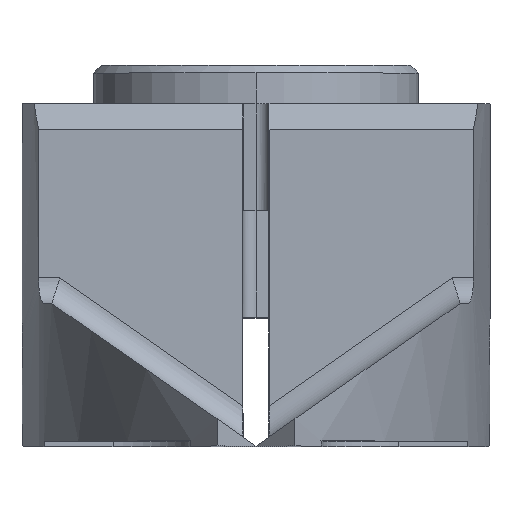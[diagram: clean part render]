
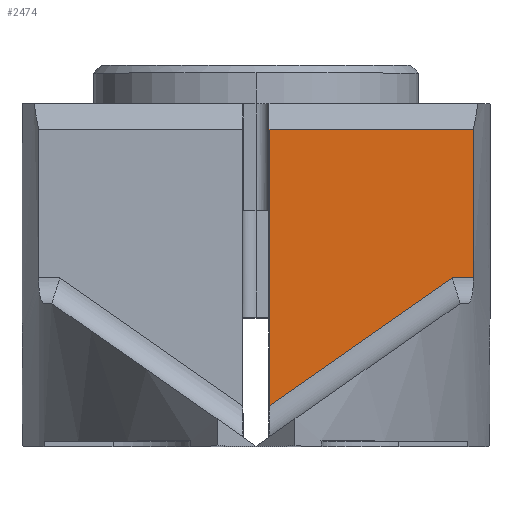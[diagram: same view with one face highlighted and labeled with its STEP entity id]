
A CAD part, top view. The second image highlights one B-rep face of the part: STEP entity #2474.
In plain terms, the highlighted planar face has unit normal (0, 0, 1).
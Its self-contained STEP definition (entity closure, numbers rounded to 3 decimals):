
#125 = LINE ( 'NONE', #371, #3430 ) ;
#371 = CARTESIAN_POINT ( 'NONE',  ( 8.362, 1.6, 20. ) ) ;
#437 = LINE ( 'NONE', #2467, #2647 ) ;
#508 = CARTESIAN_POINT ( 'NONE',  ( 8.362, 7.2, 20. ) ) ;
#612 = VERTEX_POINT ( 'NONE', #1648 ) ;
#635 = LINE ( 'NONE', #1514, #4873 ) ;
#852 = ORIENTED_EDGE ( 'NONE', *, *, #1675, .T. ) ;
#952 = VERTEX_POINT ( 'NONE', #3703 ) ;
#1037 = CARTESIAN_POINT ( 'NONE',  ( 7.54, 1.5, 20. ) ) ;
#1121 = DIRECTION ( 'NONE',  ( -1., 0., 0. ) ) ;
#1304 = CARTESIAN_POINT ( 'NONE',  ( 0.5, -3.429, 20. ) ) ;
#1431 = PLANE ( 'NONE',  #2781 ) ;
#1514 = CARTESIAN_POINT ( 'NONE',  ( 0.5, 1.6, 20. ) ) ;
#1606 = ORIENTED_EDGE ( 'NONE', *, *, #3953, .F. ) ;
#1648 = CARTESIAN_POINT ( 'NONE',  ( 8.362, 1.5, 20. ) ) ;
#1675 = EDGE_CURVE ( 'NONE', #952, #3119, #1853, .T. ) ;
#1735 = CARTESIAN_POINT ( 'NONE',  ( 2.847, -1.786, 20. ) ) ;
#1853 = B_SPLINE_CURVE_WITH_KNOTS ( 'NONE', 3,
 ( #1304, #1735, #5271, #1037 ),
 .UNSPECIFIED., .F., .F.,
 ( 4, 4 ),
 ( 0., 1. ),
 .UNSPECIFIED. ) ;
#1858 = DIRECTION ( 'NONE',  ( 0., 0., 1. ) ) ;
#1927 = CARTESIAN_POINT ( 'NONE',  ( 7.54, 1.5, 20. ) ) ;
#1940 = DIRECTION ( 'NONE',  ( 0., 1., 0. ) ) ;
#2455 = EDGE_LOOP ( 'NONE', ( #1606, #4175, #852, #4936, #5000 ) ) ;
#2467 = CARTESIAN_POINT ( 'NONE',  ( 4.545, 7.2, 20. ) ) ;
#2474 = ADVANCED_FACE ( 'NONE', ( #2723 ), #1431, .T. ) ;
#2647 = VECTOR ( 'NONE', #4550, 1000. ) ;
#2714 = CARTESIAN_POINT ( 'NONE',  ( 0.5, 7.2, 20. ) ) ;
#2723 = FACE_OUTER_BOUND ( 'NONE', #2455, .T. ) ;
#2759 = VECTOR ( 'NONE', #1121, 1000. ) ;
#2763 = CARTESIAN_POINT ( 'NONE',  ( 7.951, 1.5, 20. ) ) ;
#2781 = AXIS2_PLACEMENT_3D ( 'NONE', #4305, #1858, #4707 ) ;
#2863 = DIRECTION ( 'NONE',  ( 0., -1., 0. ) ) ;
#2929 = VERTEX_POINT ( 'NONE', #508 ) ;
#3119 = VERTEX_POINT ( 'NONE', #1927 ) ;
#3430 = VECTOR ( 'NONE', #2863, 1000. ) ;
#3583 = EDGE_CURVE ( 'NONE', #952, #5141, #635, .T. ) ;
#3703 = CARTESIAN_POINT ( 'NONE',  ( 0.5, -3.429, 20. ) ) ;
#3753 = EDGE_CURVE ( 'NONE', #2929, #612, #125, .T. ) ;
#3868 = LINE ( 'NONE', #2763, #2759 ) ;
#3953 = EDGE_CURVE ( 'NONE', #5141, #2929, #437, .T. ) ;
#4175 = ORIENTED_EDGE ( 'NONE', *, *, #3583, .F. ) ;
#4305 = CARTESIAN_POINT ( 'NONE',  ( 0.5, -3.429, 20. ) ) ;
#4550 = DIRECTION ( 'NONE',  ( 1., 0., 0. ) ) ;
#4707 = DIRECTION ( 'NONE',  ( 1., 0., 0. ) ) ;
#4873 = VECTOR ( 'NONE', #1940, 1000. ) ;
#4936 = ORIENTED_EDGE ( 'NONE', *, *, #5224, .F. ) ;
#5000 = ORIENTED_EDGE ( 'NONE', *, *, #3753, .F. ) ;
#5141 = VERTEX_POINT ( 'NONE', #2714 ) ;
#5224 = EDGE_CURVE ( 'NONE', #612, #3119, #3868, .T. ) ;
#5271 = CARTESIAN_POINT ( 'NONE',  ( 5.193, -0.143, 20. ) ) ;
